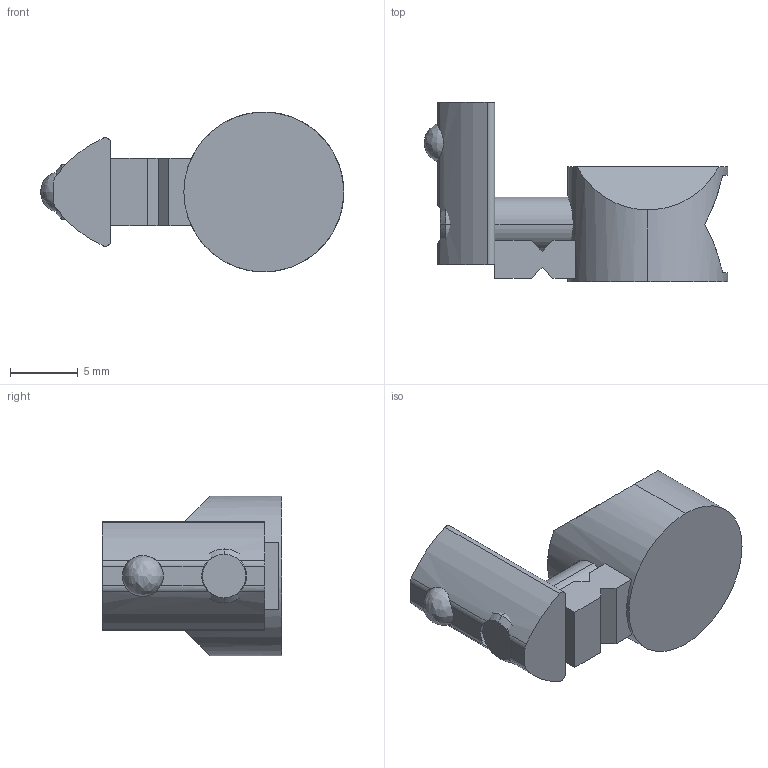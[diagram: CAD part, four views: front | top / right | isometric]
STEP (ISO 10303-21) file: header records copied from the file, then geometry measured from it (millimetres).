
FILE_DESCRIPTION (( 'STEP AP203' ), '1' );
FILE_NAME ('0105UVNSZ.STEP', '2024-09-03T07:48:19', ( 'Windows-Benutzer' ), ( '' ), 'SwSTEP 2.0', 'SolidWorks 2024', '' );
FILE_SCHEMA (( 'CONFIG_CONTROL_DESIGN' ));
Length unit declared in the file: millimetre
Products named in the file (4): 0105UVNSZ; 099A0520S01-Screw_Standard<Wie bearbeitet>; Geotech 0105NSM4 Nutenstein 5 M4, Stahl verzinkt_Standard<Wie bearbeitet>; 099A0520S01-1_Standard<Wie bearbeitet>
Assembly tree (3 placements, depth 2):
  0105UVNSZ
    099A0520S01-1_Standard<Wie bearbeitet>
    099A0520S01-Screw_Standard<Wie bearbeitet>
    Geotech 0105NSM4 Nutenstein 5 M4, Stahl verzinkt_Standard<Wie bearbeitet>
Bounding box: 22.4 x 13.25 x 11.8 mm (x, y, z)
Volume: 1088.6 mm3; surface area: 1449 mm2
Topology: 3 solids, 3 shells, 79 faces, 203 edges, 129 vertices
Faces by surface type: plane 48, cylinder 23, cone 4, torus 2, bspline 2
Entity records: 2982 total; most frequent: CARTESIAN_POINT 696, ORIENTED_EDGE 394, DIRECTION 392, EDGE_CURVE 197, AXIS2_PLACEMENT_3D 141, VERTEX_POINT 129, LINE 110, VECTOR 110
